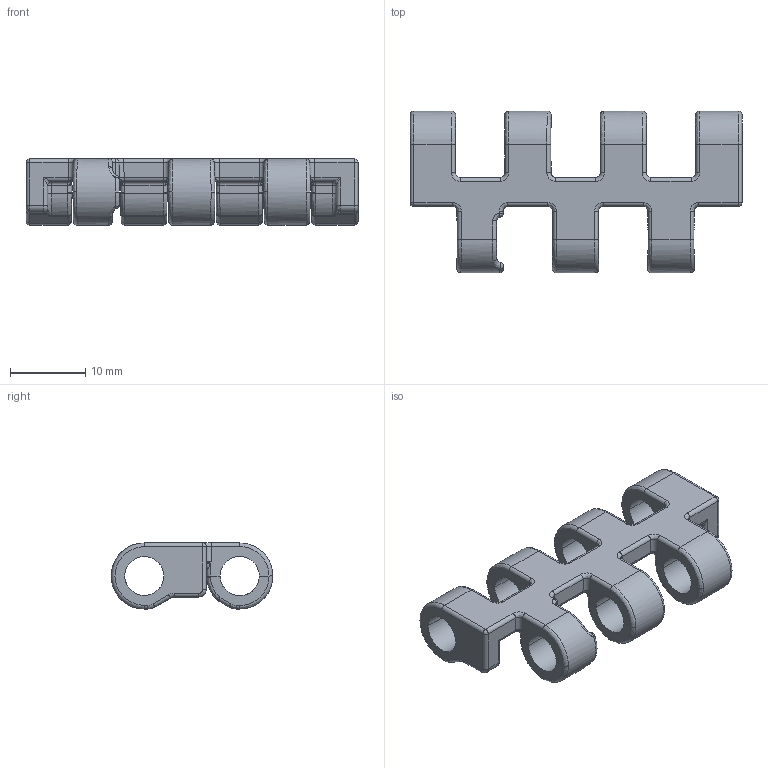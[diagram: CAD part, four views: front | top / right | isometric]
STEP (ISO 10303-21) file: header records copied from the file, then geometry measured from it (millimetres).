
FILE_DESCRIPTION((''),'2;1');
FILE_NAME('P1295','2020-12-07T09:13:57',('MTH'),(''),'CREO PARAMETRIC BY PTC INC, 2020184','CREO PARAMETRIC BY PTC INC, 2020184','');
FILE_SCHEMA(('AUTOMOTIVE_DESIGN { 1 0 10303 214 1 1 1 1 }'));
Length unit declared in the file: millimetre
Products named in the file (1): P1295
Bounding box: 44.19 x 21.5 x 8.8 mm (x, y, z)
Volume: 2429.3 mm3; surface area: 2869.3 mm2
Topology: 1 solids, 1 shells, 389 faces, 909 edges, 510 vertices
Faces by surface type: cylinder 166, bspline 139, plane 64, torus 12, sphere 8
Entity records: 19162 total; most frequent: CARTESIAN_POINT 11029, ORIENTED_EDGE 1818, DIRECTION 1347, EDGE_CURVE 909, VERTEX_POINT 510, AXIS2_PLACEMENT_3D 505, EDGE_LOOP 391, FACE_OUTER_BOUND 389
